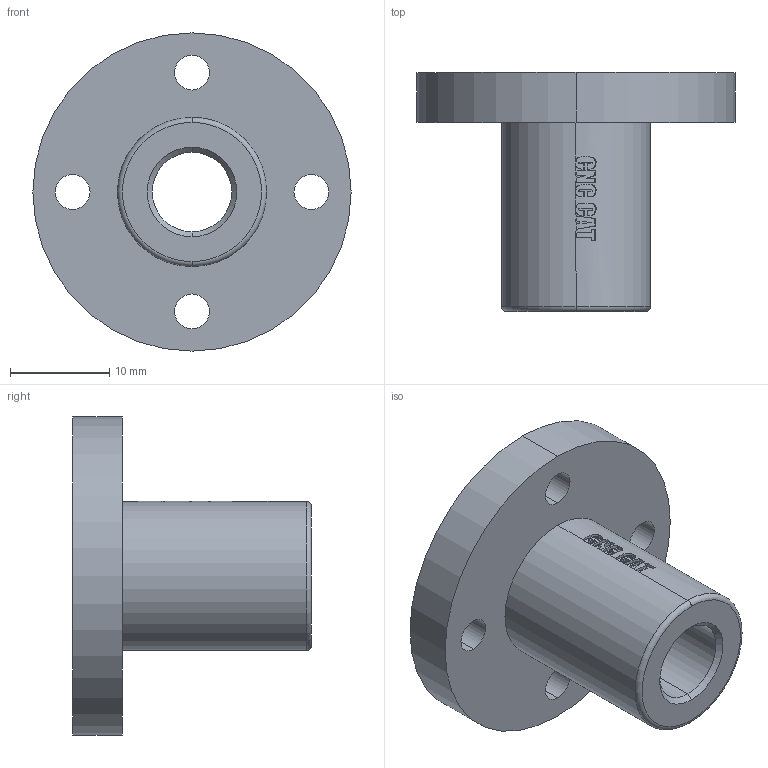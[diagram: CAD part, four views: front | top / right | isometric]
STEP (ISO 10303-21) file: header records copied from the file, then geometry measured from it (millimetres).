
FILE_DESCRIPTION (( 'STEP AP203' ), '1' );
FILE_NAME ('LMF8UU.STEP', '2017-08-10T13:17:14', ( '' ), ( '' ), 'SwSTEP 2.0', 'SolidWorks 2017', '' );
FILE_SCHEMA (( 'CONFIG_CONTROL_DESIGN' ));
Length unit declared in the file: millimetre
Products named in the file (1): LMF8UU
Bounding box: 32 x 24 x 32 mm (x, y, z)
Volume: 5971 mm3; surface area: 3649.8 mm2
Topology: 1 solids, 1 shells, 110 faces, 304 edges, 198 vertices
Faces by surface type: plane 48, bspline 32, cylinder 26, cone 2, torus 2
Entity records: 7288 total; most frequent: CARTESIAN_POINT 4652, ORIENTED_EDGE 608, DIRECTION 421, EDGE_CURVE 304, VERTEX_POINT 198, AXIS2_PLACEMENT_3D 165, B_SPLINE_CURVE_WITH_KNOTS 127, EDGE_LOOP 122
